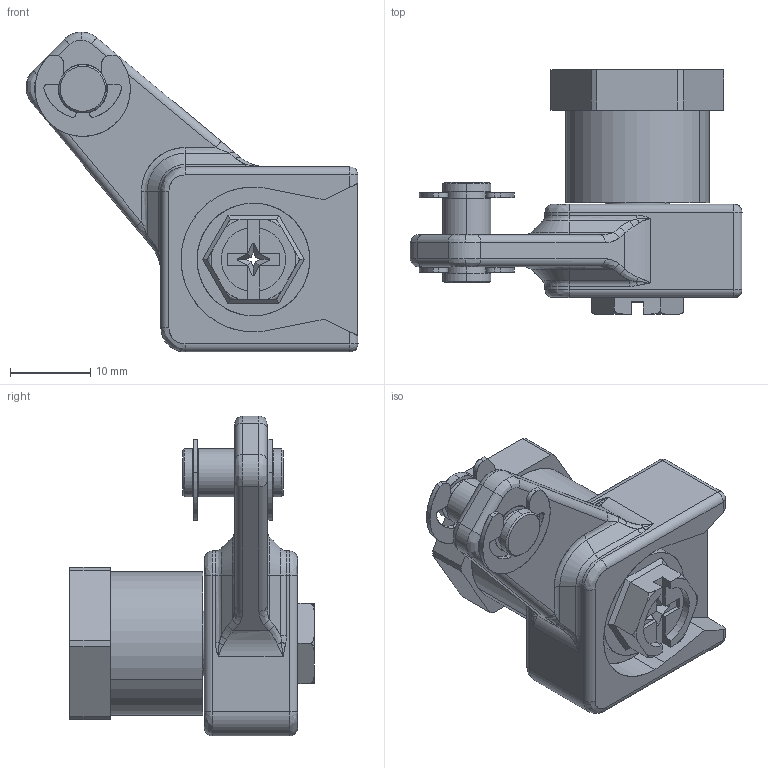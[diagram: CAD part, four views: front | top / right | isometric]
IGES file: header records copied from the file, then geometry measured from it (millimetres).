
Start section: SolidWorks IGES file using analytic representation for surfaces
Global section: file name: E:\NEW PRODUCT FOR 2018\DMRE 3POINT CAM HOLDER\DMRE.IGS; native system: SolidWorks 2019; preprocessor: SolidWorks 2019; author: maheshkanitkar; date: 221202.112637; units: millimetre
Bounding box: 41.27 x 30.35 x 39.77 mm (x, y, z)
Surface area: 6611.6 mm2 (no closed solid volume)
Topology: 0 solids, 0 shells, 255 faces, 2581 edges, 2566 vertices
Faces by surface type: bspline 138, revolution 117
